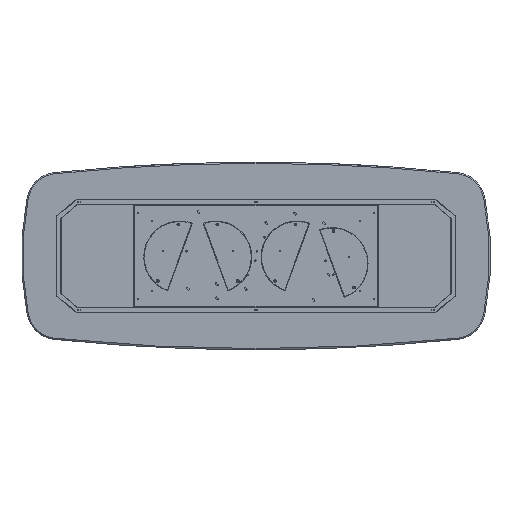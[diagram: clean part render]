
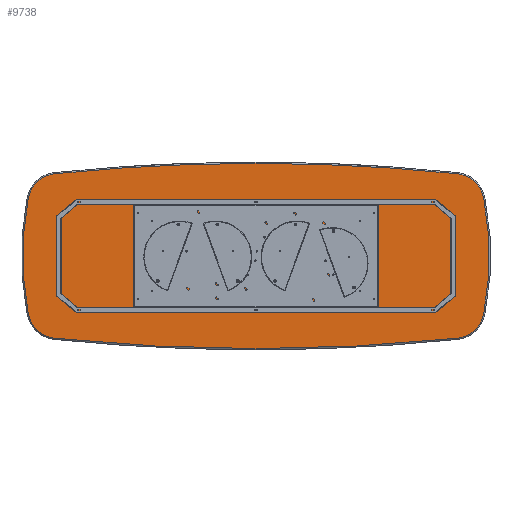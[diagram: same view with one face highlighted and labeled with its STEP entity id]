
A CAD part, front view. The second image highlights one B-rep face of the part: STEP entity #9738.
In plain terms, the highlighted planar face has unit normal (0, -1, 0).
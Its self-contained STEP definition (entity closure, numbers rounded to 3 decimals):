
#737 = DIRECTION ( 'NONE',  ( 0., 0., 1. ) ) ;
#815 = DIRECTION ( 'NONE',  ( 0., 0., 1. ) ) ;
#865 = DIRECTION ( 'NONE',  ( 0., 0., 1. ) ) ;
#930 = CARTESIAN_POINT ( 'NONE',  ( 0., 0., -11900. ) ) ;
#949 = DIRECTION ( 'NONE',  ( 0., 0., 1. ) ) ;
#1009 = FACE_OUTER_BOUND ( 'NONE', #7129, .T. ) ;
#1116 = DIRECTION ( 'NONE',  ( 0., 0., 1. ) ) ;
#1940 = VERTEX_POINT ( 'NONE', #8837 ) ;
#2066 = DIRECTION ( 'NONE',  ( 0., -1., 0. ) ) ;
#2441 = CARTESIAN_POINT ( 'NONE',  ( 0., 0., 11900. ) ) ;
#2510 = VERTEX_POINT ( 'NONE', #9310 ) ;
#2723 = VERTEX_POINT ( 'NONE', #19030 ) ;
#2833 = EDGE_CURVE ( 'NONE', #13675, #2723, #18778, .T. ) ;
#4270 = AXIS2_PLACEMENT_3D ( 'NONE', #7060, #17909, #1116 ) ;
#4341 = ORIENTED_EDGE ( 'NONE', *, *, #15431, .T. ) ;
#4672 = CIRCLE ( 'NONE', #17203, 12492. ) ;
#4768 = CARTESIAN_POINT ( 'NONE',  ( 0., 0., -11900. ) ) ;
#4793 = ORIENTED_EDGE ( 'NONE', *, *, #5504, .T. ) ;
#4892 = CARTESIAN_POINT ( 'NONE',  ( 1266.747, 0., -334.597 ) ) ;
#5109 = VERTEX_POINT ( 'NONE', #7532 ) ;
#5343 = CARTESIAN_POINT ( 'NONE',  ( -1266.747, 0., 334.597 ) ) ;
#5504 = EDGE_CURVE ( 'NONE', #14055, #8443, #16364, .T. ) ;
#5620 = EDGE_CURVE ( 'NONE', #10397, #13675, #17314, .T. ) ;
#5782 = AXIS2_PLACEMENT_3D ( 'NONE', #12368, #18675, #6124 ) ;
#6069 = AXIS2_PLACEMENT_3D ( 'NONE', #16871, #15263, #13471 ) ;
#6124 = DIRECTION ( 'NONE',  ( 0., 0., 1. ) ) ;
#6305 = CARTESIAN_POINT ( 'NONE',  ( -1286.52, 0., 525.576 ) ) ;
#6494 = EDGE_CURVE ( 'NONE', #17078, #5109, #7407, .T. ) ;
#6607 = CARTESIAN_POINT ( 'NONE',  ( 1454.991, 0., 372.386 ) ) ;
#7060 = CARTESIAN_POINT ( 'NONE',  ( -200., 0., 5950. ) ) ;
#7092 = DIRECTION ( 'NONE',  ( 0., -1., 0. ) ) ;
#7129 = EDGE_LOOP ( 'NONE', ( #4793, #18489, #8633, #4341, #15247, #11862, #9128, #11168, #19542 ) ) ;
#7309 = EDGE_CURVE ( 'NONE', #5109, #10397, #16095, .T. ) ;
#7407 = CIRCLE ( 'NONE', #5782, 192. ) ;
#7532 = CARTESIAN_POINT ( 'NONE',  ( 1286.52, 0., 525.576 ) ) ;
#7938 = CARTESIAN_POINT ( 'NONE',  ( -1286.52, 0., -525.576 ) ) ;
#8443 = VERTEX_POINT ( 'NONE', #7938 ) ;
#8581 = DIRECTION ( 'NONE',  ( 0., -1., 0. ) ) ;
#8633 = ORIENTED_EDGE ( 'NONE', *, *, #17026, .T. ) ;
#8725 = CARTESIAN_POINT ( 'NONE',  ( -1266.747, 0., -334.597 ) ) ;
#8743 = CARTESIAN_POINT ( 'NONE',  ( -400., 0., 0. ) ) ;
#8837 = CARTESIAN_POINT ( 'NONE',  ( 1454.991, 0., -372.386 ) ) ;
#9128 = ORIENTED_EDGE ( 'NONE', *, *, #5620, .T. ) ;
#9297 = CIRCLE ( 'NONE', #6069, 1892. ) ;
#9310 = CARTESIAN_POINT ( 'NONE',  ( 1286.52, 0., -525.576 ) ) ;
#9633 = DIRECTION ( 'NONE',  ( 0., 0., 1. ) ) ;
#9738 = ADVANCED_FACE ( 'NONE', ( #1009 ), #19324, .F. ) ;
#10219 = DIRECTION ( 'NONE',  ( 0., 0., 1. ) ) ;
#10397 = VERTEX_POINT ( 'NONE', #10473 ) ;
#10473 = CARTESIAN_POINT ( 'NONE',  ( 0., 0., 592. ) ) ;
#10544 = DIRECTION ( 'NONE',  ( 0., -1., 0. ) ) ;
#11168 = ORIENTED_EDGE ( 'NONE', *, *, #2833, .T. ) ;
#11862 = ORIENTED_EDGE ( 'NONE', *, *, #7309, .T. ) ;
#12368 = CARTESIAN_POINT ( 'NONE',  ( 1266.747, 0., 334.597 ) ) ;
#12476 = EDGE_CURVE ( 'NONE', #8443, #2510, #4672, .T. ) ;
#12960 = CARTESIAN_POINT ( 'NONE',  ( -1454.991, 0., -372.386 ) ) ;
#13471 = DIRECTION ( 'NONE',  ( 0., 0., 1. ) ) ;
#13647 = DIRECTION ( 'NONE',  ( 0., 0., 1. ) ) ;
#13675 = VERTEX_POINT ( 'NONE', #6305 ) ;
#14055 = VERTEX_POINT ( 'NONE', #12960 ) ;
#14436 = AXIS2_PLACEMENT_3D ( 'NONE', #4892, #2066, #9633 ) ;
#14751 = AXIS2_PLACEMENT_3D ( 'NONE', #8725, #16249, #949 ) ;
#14868 = DIRECTION ( 'NONE',  ( 0., -1., 0. ) ) ;
#15138 = AXIS2_PLACEMENT_3D ( 'NONE', #930, #7092, #737 ) ;
#15247 = ORIENTED_EDGE ( 'NONE', *, *, #6494, .T. ) ;
#15263 = DIRECTION ( 'NONE',  ( 0., -1., 0. ) ) ;
#15330 = AXIS2_PLACEMENT_3D ( 'NONE', #8743, #14868, #865 ) ;
#15431 = EDGE_CURVE ( 'NONE', #1940, #17078, #19510, .T. ) ;
#16095 = CIRCLE ( 'NONE', #15138, 12492. ) ;
#16249 = DIRECTION ( 'NONE',  ( 0., -1., 0. ) ) ;
#16364 = CIRCLE ( 'NONE', #14751, 192. ) ;
#16833 = EDGE_CURVE ( 'NONE', #2723, #14055, #9297, .T. ) ;
#16871 = CARTESIAN_POINT ( 'NONE',  ( 400., 0., 0. ) ) ;
#17026 = EDGE_CURVE ( 'NONE', #2510, #1940, #17960, .T. ) ;
#17078 = VERTEX_POINT ( 'NONE', #6607 ) ;
#17203 = AXIS2_PLACEMENT_3D ( 'NONE', #2441, #19355, #10219 ) ;
#17314 = CIRCLE ( 'NONE', #18278, 12492. ) ;
#17909 = DIRECTION ( 'NONE',  ( 0., 1., 0. ) ) ;
#17960 = CIRCLE ( 'NONE', #14436, 192. ) ;
#18278 = AXIS2_PLACEMENT_3D ( 'NONE', #4768, #10544, #13647 ) ;
#18489 = ORIENTED_EDGE ( 'NONE', *, *, #12476, .T. ) ;
#18675 = DIRECTION ( 'NONE',  ( 0., -1., 0. ) ) ;
#18778 = CIRCLE ( 'NONE', #19759, 192. ) ;
#19030 = CARTESIAN_POINT ( 'NONE',  ( -1454.991, 0., 372.386 ) ) ;
#19324 = PLANE ( 'NONE',  #4270 ) ;
#19355 = DIRECTION ( 'NONE',  ( 0., -1., 0. ) ) ;
#19510 = CIRCLE ( 'NONE', #15330, 1892. ) ;
#19542 = ORIENTED_EDGE ( 'NONE', *, *, #16833, .T. ) ;
#19759 = AXIS2_PLACEMENT_3D ( 'NONE', #5343, #8581, #815 ) ;
